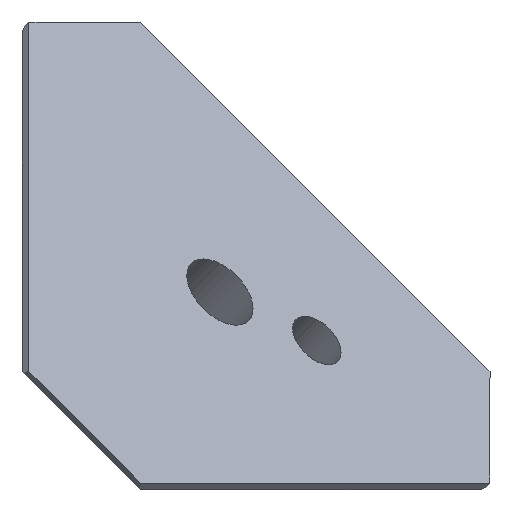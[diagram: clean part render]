
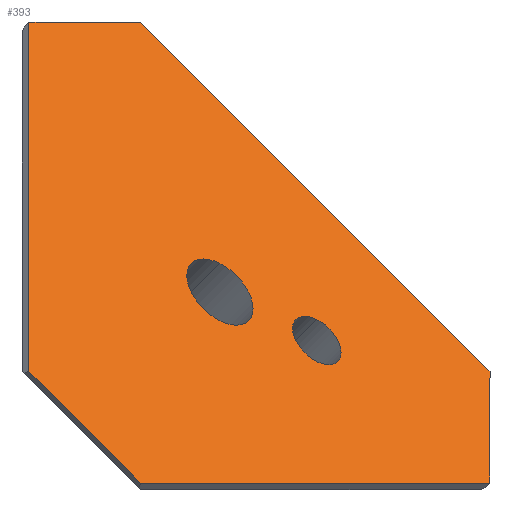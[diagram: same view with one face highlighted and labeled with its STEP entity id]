
A CAD part, left-side view. The second image highlights one B-rep face of the part: STEP entity #393.
In plain terms, the highlighted planar face has unit normal (-0.577, -0.577, 0.577).
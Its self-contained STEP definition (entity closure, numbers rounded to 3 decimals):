
#2 = VERTEX_POINT ( 'NONE', #414 ) ;
#8 = LINE ( 'NONE', #379, #592 ) ;
#10 = EDGE_CURVE ( 'NONE', #117, #191, #103, .T. ) ;
#18 = ORIENTED_EDGE ( 'NONE', *, *, #299, .T. ) ;
#20 = DIRECTION ( 'NONE',  ( -0.707, 0.707, 0. ) ) ;
#23 = EDGE_CURVE ( 'NONE', #191, #117, #603, .T. ) ;
#26 = VERTEX_POINT ( 'NONE', #597 ) ;
#28 = EDGE_CURVE ( 'NONE', #108, #551, #221, .T. ) ;
#42 = VECTOR ( 'NONE', #257, 1000. ) ;
#49 = DIRECTION ( 'NONE',  ( 0.707, 0., 0.707 ) ) ;
#52 = CARTESIAN_POINT ( 'NONE',  ( -4.324, 7.324, 3. ) ) ;
#66 = AXIS2_PLACEMENT_3D ( 'NONE', #93, #512, #505 ) ;
#72 = EDGE_CURVE ( 'NONE', #26, #2, #201, .T. ) ;
#73 = VERTEX_POINT ( 'NONE', #238 ) ;
#76 = VECTOR ( 'NONE', #600, 1000. ) ;
#77 = VECTOR ( 'NONE', #176, 1000. ) ;
#85 = FACE_BOUND ( 'NONE', #246, .T. ) ;
#86 = CARTESIAN_POINT ( 'NONE',  ( 3.225, 2.5, 5.725 ) ) ;
#88 = CARTESIAN_POINT ( 'NONE',  ( 7.324, -4.324, 3. ) ) ;
#93 = CARTESIAN_POINT ( 'NONE',  ( 0., 0., 0. ) ) ;
#103 = CIRCLE ( 'NONE', #453, 1.025 ) ;
#106 = DIRECTION ( 'NONE',  ( -0.577, -0.577, 0.577 ) ) ;
#108 = VERTEX_POINT ( 'NONE', #52 ) ;
#109 = DIRECTION ( 'NONE',  ( 0.707, 0., 0.707 ) ) ;
#116 = ORIENTED_EDGE ( 'NONE', *, *, #28, .T. ) ;
#117 = VERTEX_POINT ( 'NONE', #422 ) ;
#139 = ORIENTED_EDGE ( 'NONE', *, *, #589, .T. ) ;
#142 = CARTESIAN_POINT ( 'NONE',  ( 7.324, 4.588, 11.912 ) ) ;
#144 = DIRECTION ( 'NONE',  ( -0.707, 0., -0.707 ) ) ;
#154 = EDGE_CURVE ( 'NONE', #239, #525, #283, .T. ) ;
#167 = CARTESIAN_POINT ( 'NONE',  ( 3.725, 0.051, 3.775 ) ) ;
#176 = DIRECTION ( 'NONE',  ( 0., 0.707, 0.707 ) ) ;
#191 = VERTEX_POINT ( 'NONE', #86 ) ;
#196 = CARTESIAN_POINT ( 'NONE',  ( 7.324, 4.5, 11.824 ) ) ;
#201 = CIRCLE ( 'NONE', #577, 0.75 ) ;
#217 = ORIENTED_EDGE ( 'NONE', *, *, #343, .T. ) ;
#221 = LINE ( 'NONE', #315, #76 ) ;
#222 = PLANE ( 'NONE',  #66 ) ;
#238 = CARTESIAN_POINT ( 'NONE',  ( 4.5, -4.324, 0.176 ) ) ;
#239 = VERTEX_POINT ( 'NONE', #88 ) ;
#246 = EDGE_LOOP ( 'NONE', ( #342, #607 ) ) ;
#249 = LINE ( 'NONE', #583, #564 ) ;
#256 = CARTESIAN_POINT ( 'NONE',  ( 2.5, 2.5, 5. ) ) ;
#257 = DIRECTION ( 'NONE',  ( 0.707, 0., 0.707 ) ) ;
#262 = DIRECTION ( 'NONE',  ( -0.577, -0.577, 0.577 ) ) ;
#283 = LINE ( 'NONE', #142, #77 ) ;
#299 = EDGE_CURVE ( 'NONE', #525, #558, #594, .T. ) ;
#315 = CARTESIAN_POINT ( 'NONE',  ( -4.324, 2.162, -2.162 ) ) ;
#328 = CARTESIAN_POINT ( 'NONE',  ( -4.324, 4.5, 0.176 ) ) ;
#333 = ORIENTED_EDGE ( 'NONE', *, *, #506, .F. ) ;
#335 = CARTESIAN_POINT ( 'NONE',  ( 5.912, 5.912, 11.824 ) ) ;
#341 = DIRECTION ( 'NONE',  ( 0.707, -0.707, 0. ) ) ;
#342 = ORIENTED_EDGE ( 'NONE', *, *, #23, .F. ) ;
#343 = EDGE_CURVE ( 'NONE', #551, #73, #249, .T. ) ;
#346 = ORIENTED_EDGE ( 'NONE', *, *, #604, .T. ) ;
#357 = FACE_BOUND ( 'NONE', #400, .T. ) ;
#371 = EDGE_LOOP ( 'NONE', ( #217, #346, #457, #18, #139, #116 ) ) ;
#374 = VECTOR ( 'NONE', #20, 1000. ) ;
#376 = ORIENTED_EDGE ( 'NONE', *, *, #72, .F. ) ;
#379 = CARTESIAN_POINT ( 'NONE',  ( -4.412, 7.324, 2.912 ) ) ;
#393 = ADVANCED_FACE ( 'NONE', ( #357, #560, #85 ), #222, .T. ) ;
#400 = EDGE_LOOP ( 'NONE', ( #376, #333 ) ) ;
#403 = LINE ( 'NONE', #543, #42 ) ;
#409 = DIRECTION ( 'NONE',  ( 0.707, 0., 0.707 ) ) ;
#414 = CARTESIAN_POINT ( 'NONE',  ( 3.194, 0.051, 3.245 ) ) ;
#422 = CARTESIAN_POINT ( 'NONE',  ( 1.775, 2.5, 4.275 ) ) ;
#453 = AXIS2_PLACEMENT_3D ( 'NONE', #509, #462, #409 ) ;
#455 = DIRECTION ( 'NONE',  ( 0.707, 0., 0.707 ) ) ;
#457 = ORIENTED_EDGE ( 'NONE', *, *, #154, .T. ) ;
#462 = DIRECTION ( 'NONE',  ( -0.577, -0.577, 0.577 ) ) ;
#473 = CARTESIAN_POINT ( 'NONE',  ( 4.5, 7.324, 11.824 ) ) ;
#479 = CARTESIAN_POINT ( 'NONE',  ( 3.725, 0.051, 3.775 ) ) ;
#505 = DIRECTION ( 'NONE',  ( 0.707, 0., 0.707 ) ) ;
#506 = EDGE_CURVE ( 'NONE', #2, #26, #565, .T. ) ;
#509 = CARTESIAN_POINT ( 'NONE',  ( 2.5, 2.5, 5. ) ) ;
#512 = DIRECTION ( 'NONE',  ( -0.577, -0.577, 0.577 ) ) ;
#525 = VERTEX_POINT ( 'NONE', #196 ) ;
#543 = CARTESIAN_POINT ( 'NONE',  ( 2.162, -4.324, -2.162 ) ) ;
#546 = AXIS2_PLACEMENT_3D ( 'NONE', #479, #106, #109 ) ;
#551 = VERTEX_POINT ( 'NONE', #328 ) ;
#555 = AXIS2_PLACEMENT_3D ( 'NONE', #256, #595, #455 ) ;
#558 = VERTEX_POINT ( 'NONE', #473 ) ;
#560 = FACE_OUTER_BOUND ( 'NONE', #371, .T. ) ;
#564 = VECTOR ( 'NONE', #341, 1000. ) ;
#565 = CIRCLE ( 'NONE', #546, 0.75 ) ;
#577 = AXIS2_PLACEMENT_3D ( 'NONE', #167, #262, #49 ) ;
#583 = CARTESIAN_POINT ( 'NONE',  ( 4.588, -4.412, 0.176 ) ) ;
#589 = EDGE_CURVE ( 'NONE', #558, #108, #8, .T. ) ;
#592 = VECTOR ( 'NONE', #144, 1000. ) ;
#594 = LINE ( 'NONE', #335, #374 ) ;
#595 = DIRECTION ( 'NONE',  ( -0.577, -0.577, 0.577 ) ) ;
#597 = CARTESIAN_POINT ( 'NONE',  ( 4.255, 0.051, 4.306 ) ) ;
#600 = DIRECTION ( 'NONE',  ( 0., -0.707, -0.707 ) ) ;
#603 = CIRCLE ( 'NONE', #555, 1.025 ) ;
#604 = EDGE_CURVE ( 'NONE', #73, #239, #403, .T. ) ;
#607 = ORIENTED_EDGE ( 'NONE', *, *, #10, .F. ) ;
